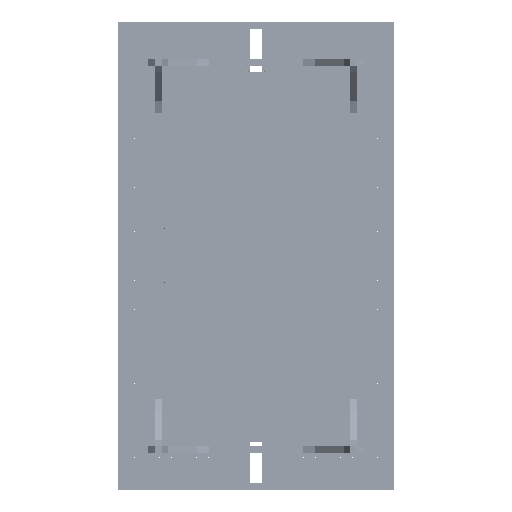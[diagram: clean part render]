
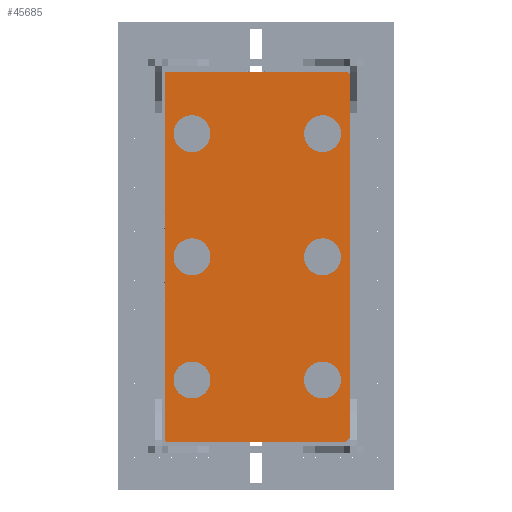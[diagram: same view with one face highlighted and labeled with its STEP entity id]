
A CAD part, front view. The second image highlights one B-rep face of the part: STEP entity #45685.
In plain terms, the highlighted planar face has unit normal (0, -1, 0) as drawn and (0, 0, 1) by its records, which use the part's own axes.
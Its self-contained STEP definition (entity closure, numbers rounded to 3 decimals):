
#1197 = EDGE_CURVE ( 'NONE', #30960, #39475, #26868, .T. ) ;
#2046 = CARTESIAN_POINT ( 'NONE',  ( -1500., -750., 300. ) ) ;
#6760 = EDGE_CURVE ( 'NONE', #48828, #30960, #63226, .T. ) ;
#8556 = LINE ( 'NONE', #39834, #21478 ) ;
#14359 = VECTOR ( 'NONE', #63909, 1000. ) ;
#15062 = DIRECTION ( 'NONE',  ( 0., 1., 0. ) ) ;
#15969 = VECTOR ( 'NONE', #15062, 1000. ) ;
#17129 = CARTESIAN_POINT ( 'NONE',  ( 1500., 750., 300. ) ) ;
#17337 = CARTESIAN_POINT ( 'NONE',  ( 1500., -750., 300. ) ) ;
#20165 = LINE ( 'NONE', #61623, #15969 ) ;
#21478 = VECTOR ( 'NONE', #51041, 1000. ) ;
#23962 = ORIENTED_EDGE ( 'NONE', *, *, #1197, .T. ) ;
#25600 = CARTESIAN_POINT ( 'NONE',  ( 0., 0., 300. ) ) ;
#26868 = LINE ( 'NONE', #37385, #52384 ) ;
#26925 = PLANE ( 'NONE',  #36273 ) ;
#28633 = CARTESIAN_POINT ( 'NONE',  ( -1500., -750., 300. ) ) ;
#29077 = EDGE_CURVE ( 'NONE', #39475, #56359, #20165, .T. ) ;
#29973 = CARTESIAN_POINT ( 'NONE',  ( -1500., 750., 300. ) ) ;
#30960 = VERTEX_POINT ( 'NONE', #28633 ) ;
#31665 = ORIENTED_EDGE ( 'NONE', *, *, #38152, .T. ) ;
#33307 = DIRECTION ( 'NONE',  ( 1., 0., 0. ) ) ;
#36273 = AXIS2_PLACEMENT_3D ( 'NONE', #25600, #61631, #52740 ) ;
#37385 = CARTESIAN_POINT ( 'NONE',  ( -1500., -750., 300. ) ) ;
#38152 = EDGE_CURVE ( 'NONE', #56359, #48828, #8556, .T. ) ;
#39475 = VERTEX_POINT ( 'NONE', #17337 ) ;
#39834 = CARTESIAN_POINT ( 'NONE',  ( -1500., 750., 300. ) ) ;
#41573 = FACE_OUTER_BOUND ( 'NONE', #44792, .T. ) ;
#44792 = EDGE_LOOP ( 'NONE', ( #64527, #31665, #54457, #23962 ) ) ;
#45685 = ADVANCED_FACE ( 'NONE', ( #41573 ), #26925, .F. ) ;
#48828 = VERTEX_POINT ( 'NONE', #29973 ) ;
#51041 = DIRECTION ( 'NONE',  ( -1., 0., 0. ) ) ;
#52384 = VECTOR ( 'NONE', #33307, 1000. ) ;
#52740 = DIRECTION ( 'NONE',  ( 0., -1., 0. ) ) ;
#54457 = ORIENTED_EDGE ( 'NONE', *, *, #6760, .T. ) ;
#56359 = VERTEX_POINT ( 'NONE', #17129 ) ;
#61623 = CARTESIAN_POINT ( 'NONE',  ( 1500., -750., 300. ) ) ;
#61631 = DIRECTION ( 'NONE',  ( 0., 0., -1. ) ) ;
#63226 = LINE ( 'NONE', #2046, #14359 ) ;
#63909 = DIRECTION ( 'NONE',  ( 0., -1., 0. ) ) ;
#64527 = ORIENTED_EDGE ( 'NONE', *, *, #29077, .T. ) ;
